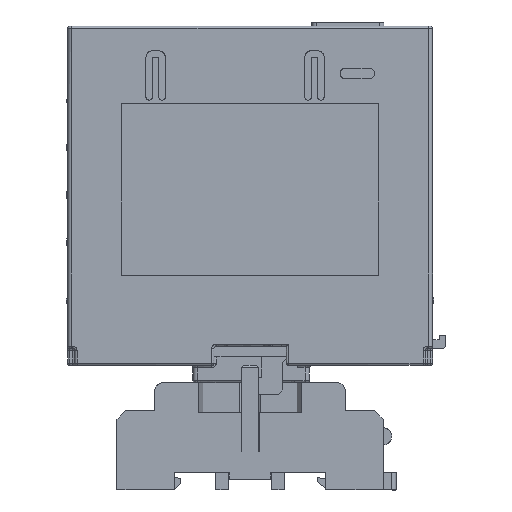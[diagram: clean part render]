
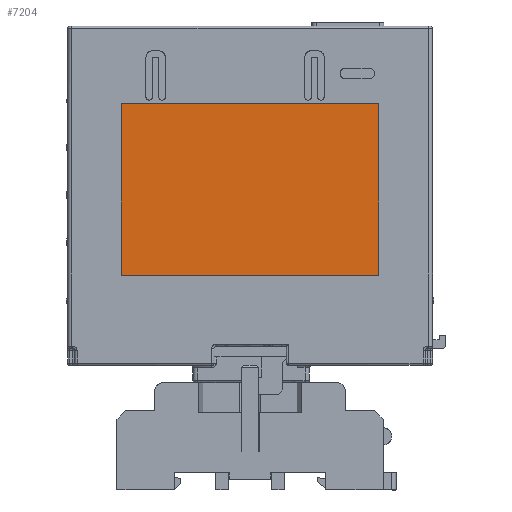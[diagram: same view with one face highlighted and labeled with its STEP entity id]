
A CAD part, left-side view. The second image highlights one B-rep face of the part: STEP entity #7204.
In plain terms, the highlighted free-form (B-spline) face has degree [1, 1] with [2, 2] control points.
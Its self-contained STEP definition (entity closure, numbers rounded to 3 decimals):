
#845 = CARTESIAN_POINT ( 'NONE',  ( -14.7, 30., 65. ) ) ;
#2388 = CARTESIAN_POINT ( 'NONE',  ( -14.7, -30., 65. ) ) ;
#3445 = VERTEX_POINT ( 'NONE', #25726 ) ;
#4025 = ORIENTED_EDGE ( 'NONE', *, *, #31966, .T. ) ;
#5795 = FACE_OUTER_BOUND ( 'NONE', #27612, .T. ) ;
#7204 = ADVANCED_FACE ( 'NONE', ( #5795 ), #44209, .T. ) ;
#7980 = B_SPLINE_CURVE_WITH_KNOTS ( 'NONE', 1,
 ( #28218, #38874 ),
 .UNSPECIFIED., .F., .F.,
 ( 2, 2 ),
 ( 0., 1. ),
 .UNSPECIFIED. ) ;
#8730 = EDGE_CURVE ( 'NONE', #3445, #26207, #7980, .T. ) ;
#13690 = VERTEX_POINT ( 'NONE', #17049 ) ;
#14265 = VERTEX_POINT ( 'NONE', #17530 ) ;
#17049 = CARTESIAN_POINT ( 'NONE',  ( -14.7, -30., 25. ) ) ;
#17530 = CARTESIAN_POINT ( 'NONE',  ( -14.7, -30., 65. ) ) ;
#19066 = EDGE_CURVE ( 'NONE', #13690, #14265, #26701, .T. ) ;
#19720 = CARTESIAN_POINT ( 'NONE',  ( -14.7, -30., 25. ) ) ;
#23835 = ORIENTED_EDGE ( 'NONE', *, *, #19066, .T. ) ;
#24530 = B_SPLINE_CURVE_WITH_KNOTS ( 'NONE', 1,
 ( #25001, #845 ),
 .UNSPECIFIED., .F., .F.,
 ( 2, 2 ),
 ( 0., 1. ),
 .UNSPECIFIED. ) ;
#25001 = CARTESIAN_POINT ( 'NONE',  ( -14.7, -30., 65. ) ) ;
#25726 = CARTESIAN_POINT ( 'NONE',  ( -14.7, 30., 65. ) ) ;
#26207 = VERTEX_POINT ( 'NONE', #29319 ) ;
#26701 = B_SPLINE_CURVE_WITH_KNOTS ( 'NONE', 1,
 ( #44899, #41474 ),
 .UNSPECIFIED., .F., .F.,
 ( 2, 2 ),
 ( 0., 1. ),
 .UNSPECIFIED. ) ;
#27612 = EDGE_LOOP ( 'NONE', ( #40272, #31947, #4025, #23835 ) ) ;
#28218 = CARTESIAN_POINT ( 'NONE',  ( -14.7, 30., 65. ) ) ;
#29319 = CARTESIAN_POINT ( 'NONE',  ( -14.7, 30., 25. ) ) ;
#31947 = ORIENTED_EDGE ( 'NONE', *, *, #8730, .T. ) ;
#31966 = EDGE_CURVE ( 'NONE', #26207, #13690, #34903, .T. ) ;
#31974 = CARTESIAN_POINT ( 'NONE',  ( -14.7, 30., 65. ) ) ;
#32659 = EDGE_CURVE ( 'NONE', #14265, #3445, #24530, .T. ) ;
#33577 = CARTESIAN_POINT ( 'NONE',  ( -14.7, 30., 25. ) ) ;
#33798 = CARTESIAN_POINT ( 'NONE',  ( -14.7, 30., 25. ) ) ;
#34903 = B_SPLINE_CURVE_WITH_KNOTS ( 'NONE', 1,
 ( #33798, #36977 ),
 .UNSPECIFIED., .F., .F.,
 ( 2, 2 ),
 ( 0., 1. ),
 .UNSPECIFIED. ) ;
#36977 = CARTESIAN_POINT ( 'NONE',  ( -14.7, -30., 25. ) ) ;
#38874 = CARTESIAN_POINT ( 'NONE',  ( -14.7, 30., 25. ) ) ;
#40272 = ORIENTED_EDGE ( 'NONE', *, *, #32659, .T. ) ;
#41474 = CARTESIAN_POINT ( 'NONE',  ( -14.7, -30., 65. ) ) ;
#44209 = B_SPLINE_SURFACE_WITH_KNOTS ( 'NONE', 1, 1, ( 
 ( #19720, #33577 ),
 ( #2388, #31974 ) ),
 .UNSPECIFIED., .F., .F., .F.,
 ( 2, 2 ),
 ( 2, 2 ),
 ( 0., 1. ),
 ( 0., 1. ),
 .UNSPECIFIED. ) ;
#44899 = CARTESIAN_POINT ( 'NONE',  ( -14.7, -30., 25. ) ) ;
